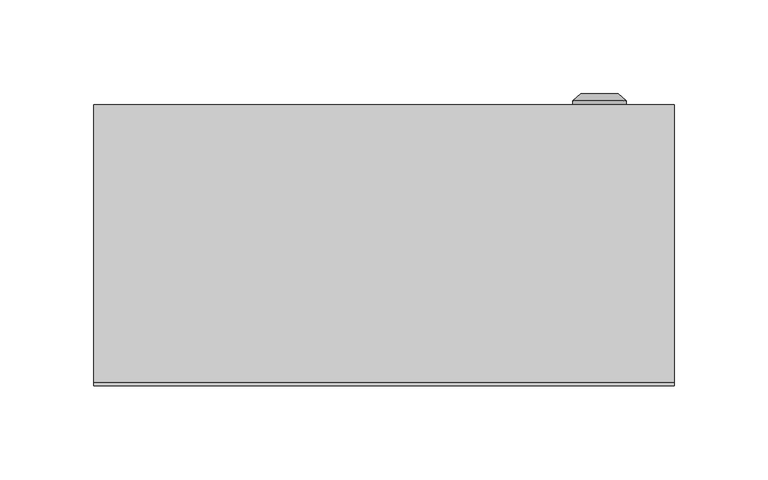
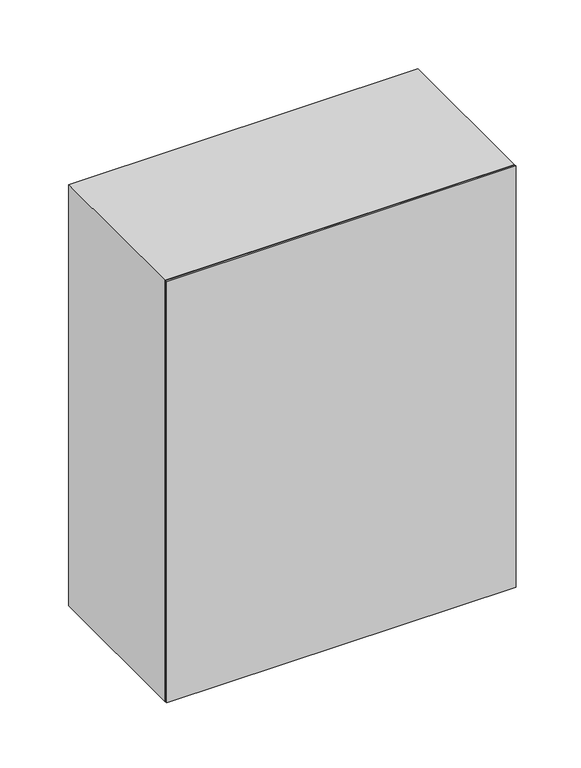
"""IFC4 building model written with IfcOpenShell, lengths in millimetres: proxy geometry, ЩМП : ЩМП-1-1_395х310х150."""

from ifc_helpers import new_model, si_unit, frame, origin, origin_with_axes, place, context, project, spatial, polyline, circle_curve, outline, extrude, source, transform, mapped, element, save
from ifc_brep_helpers import plane_surface, cylinder_surface, revolved_surface, advanced_brep


def electrical_equipment_0156054a(model_context):
    return source(origin(), model_context, "Body", "SolidModel", [
        advanced_brep(
        [(100.669873, 150.0, 195.0), (129.330127, 150.0, 195.0), (115.0, 150.0, 195.0), (100.669873, 152.366592, 195.0), (129.330127, 152.366592, 195.0), (105.0, 156.0, 195.0), (125.0, 156.0, 195.0), (113.1080471, 156.0, 195.0), (116.8919529, 156.0, 195.0), (113.1080471, 154.9822294, 195.0), (116.8919529, 154.9822294, 195.0), (115.0, 154.9822294, 195.0)],
        [
            (0, 1, circle_curve(frame((115.0, 150.0, 195.0), z_axis=(0.0, -1.0, 0.0), x_axis=(1.0, 0.0, 0.0)), 14.330127)),
            (1, 2),
            (2, 0),
            (1, 0, circle_curve(frame((115.0, 150.0, 195.0), z_axis=(0.0, -1.0, 0.0), x_axis=(1.0, 0.0, 0.0)), 14.330127)),
            (3, 4, circle_curve(frame((115.0, 152.366592, 195.0), z_axis=(0.0, -1.0, 0.0), x_axis=(1.0, 0.0, 0.0)), 14.330127)),
            (4, 1),
            (0, 3),
            (4, 3, circle_curve(frame((115.0, 152.366592, 195.0), z_axis=(0.0, -1.0, 0.0), x_axis=(1.0, 0.0, 0.0)), 14.330127)),
            (5, 6, circle_curve(frame((115.0, 156.0, 195.0), z_axis=(0.0, -1.0, 0.0), x_axis=(1.0, 0.0, 0.0)), 10.0)),
            (6, 4),
            (3, 5),
            (6, 5, circle_curve(frame((115.0, 156.0, 195.0), z_axis=(0.0, -1.0, 0.0), x_axis=(1.0, 0.0, 0.0)), 10.0)),
            (7, 8, circle_curve(frame((115.0, 156.0, 195.0), z_axis=(0.0, -1.0, 0.0), x_axis=(1.0, 0.0, 0.0)), 1.8919529)),
            (8, 6),
            (5, 7),
            (8, 7, circle_curve(frame((115.0, 156.0, 195.0), z_axis=(0.0, -1.0, 0.0), x_axis=(1.0, 0.0, 0.0)), 1.8919529)),
            (9, 10, circle_curve(frame((115.0, 154.9822294, 195.0), z_axis=(0.0, -1.0, 0.0), x_axis=(1.0, 0.0, 0.0)), 1.8919529)),
            (10, 8),
            (7, 9),
            (10, 9, circle_curve(frame((115.0, 154.9822294, 195.0), z_axis=(0.0, -1.0, 0.0), x_axis=(1.0, 0.0, 0.0)), 1.8919529)),
            (11, 10),
            (9, 11),
        ],
        [
            plane_surface(frame((115.0, 150.0, 195.0), z_axis=(0.0, -1.0, 0.0), x_axis=(1.0, 0.0, 0.0))),
            cylinder_surface(frame((115.0, 163.1348851, 195.0), z_axis=(0.0, 1.0, 0.0), x_axis=(1.0, 0.0, 0.0)), 14.330127),
            revolved_surface(polyline([(129.330127, 152.366592, 195.0), (125.0, 156.0, 195.0)]), (115.0, 163.1348851, 195.0), (0.0, 1.0, 0.0)),
            plane_surface(frame((115.0, 156.0, 195.0), z_axis=(0.0, 1.0, 0.0), x_axis=(1.0, 0.0, 0.0))),
            revolved_surface(polyline([(116.8919529, 156.0, 195.0), (116.8919529, 154.9822294, 195.0)]), (115.0, 163.1348851, 195.0), (0.0, 1.0, 0.0)),
            plane_surface(frame((115.0, 154.9822294, 195.0), z_axis=(0.0, 1.0, 0.0), x_axis=(1.0, 0.0, 0.0))),
        ],
        [
            (0, [[1, 2, 3]]),
            (0, [[4, -3, -2]]),
            (1, [[5, 6, -1, 7]]),
            (1, [[8, -7, -4, -6]]),
            (2, [[9, 10, -5, 11]]),
            (2, [[12, -11, -8, -10]]),
            (3, [[13, 14, -9, 15]]),
            (3, [[16, -15, -12, -14]]),
            (4, [[17, 18, -13, 19]]),
            (4, [[20, -19, -16, -18]]),
            (5, [[21, -17, 22]]),
            (5, [[-22, -20, -21]]),
        ],
    ),
        extrude(outline(polyline([(139.0, 125.0), (-139.0, 125.0), (-139.0, 150.0), (139.0, 150.0), (139.0, 125.0)])), frame((0.0, 0.0, 17.25), z_axis=(0.0, 0.0, 1.0), x_axis=(1.0, 0.0, 0.0)), (0.0, 0.0, 1.0), 360.5),
        extrude(outline(polyline([(395.0, -155.0033905), (0.0, -155.0033905), (0.0, 154.9966095), (395.0, 154.9966095), (395.0, -155.0033905)]), holes=[polyline([(360.0, -125.0033905), (360.0, 124.9966095), (30.0, 124.9966095), (30.0, -125.0033905), (360.0, -125.0033905)])]), frame((0.0, 2.0, 0.0), z_axis=(0.0, 1.0, 0.0), x_axis=(0.0, 0.0, 1.0)), (0.0, 0.0, 1.0), 148.0),
        extrude(outline(polyline([(155.0, 0.0), (-155.0, 0.0), (-155.0, 2.0), (155.0, 2.0), (155.0, 0.0)])), origin_with_axes(), (0.0, 0.0, 1.0), 395.0),
    ])


if __name__ == "__main__":
    model = new_model("IFC4")
    model_context = context("Model", 3, world=origin())
    ifc_project = project(units=[si_unit("LENGTHUNIT", "METRE", prefix="MILLI")], contexts=[model_context])
    site = spatial("IfcSite", under=ifc_project)
    building = spatial("IfcBuilding", under=site)
    placement = place(None, origin())
    electrical_equipment_shape = electrical_equipment_0156054a(model_context)
    element("IfcBuildingElementProxy", 1, Name="ЩМП : ЩМП-1-1_395х310х150", ObjectType="ЩМП : ЩМП-1-1_395х310х150", at=placement, inside=building, context=model_context, shape_type="MappedRepresentation", body=[
        mapped(electrical_equipment_shape, transform((0.0, 0.0, 0.0), x_axis=(1.0, 0.0, 0.0), y_axis=(0.0, 1.0, 0.0), z_axis=(0.0, 0.0, 1.0))),
    ])
    save(model, "model.ifc")
